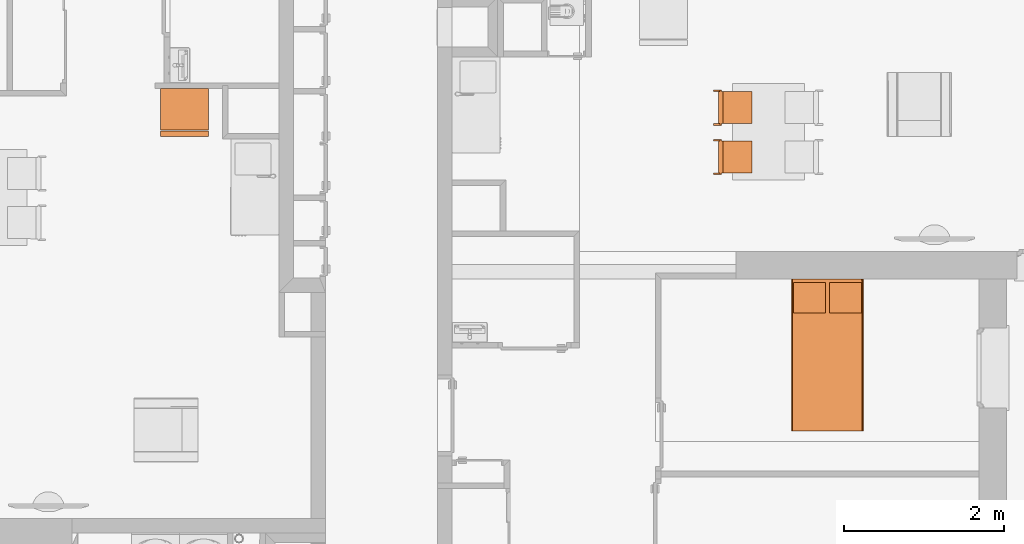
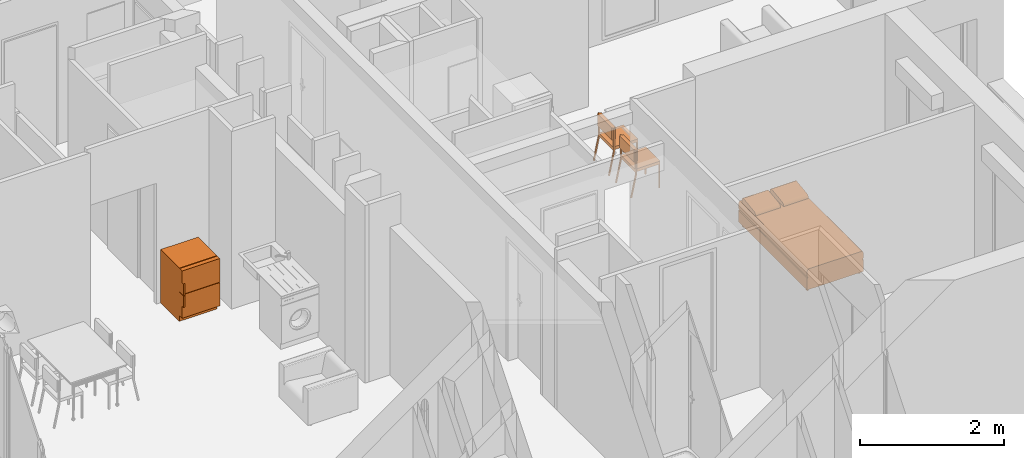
# One storey, part 145 of 164: 4 proxies.
"""IFC2X3 building model written with IfcOpenShell, lengths in millimetres."""

from ifc_helpers import new_model, entity, si_unit, converted_unit, derived_unit, money_unit, direction, frame, origin_with_axes, place, context, subcontext, project, spatial, open_shell, faceted_brep, surface_model, source, transform, mapped, type_object, element, save


model = new_model("IFC2X3")

# Units and contexts
model_context = context("Model", 3, precision=0.01, world=origin_with_axes(), true_north=direction((0.0, 1.0)))
body_context = subcontext(model_context, "Body", "Model", "MODEL_VIEW")
ifc_project = project(units=[si_unit("LENGTHUNIT", "METRE", prefix="MILLI"), si_unit("AREAUNIT", "SQUARE_METRE"), si_unit("VOLUMEUNIT", "CUBIC_METRE"), converted_unit("PLANEANGLEUNIT", "DEGREE", entity("IfcPlaneAngleMeasure", 0.0174532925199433), si_unit("PLANEANGLEUNIT", "RADIAN"), dimensions=[0, 0, 0, 0, 0, 0, 0]), money_unit("USD"), converted_unit("TIMEUNIT", "Year", entity("IfcTimeMeasure", 31557600.0), si_unit("TIMEUNIT", "SECOND"), dimensions=[0, 0, 1, 0, 0, 0, 0]), si_unit("MASSUNIT", "GRAM", prefix="KILO"), si_unit("THERMODYNAMICTEMPERATUREUNIT", "DEGREE_CELSIUS"), si_unit("LUMINOUSINTENSITYUNIT", "LUMEN"), si_unit("ENERGYUNIT", "JOULE", prefix="MEGA"), derived_unit("THERMALCONDUCTANCEUNIT", [(si_unit("POWERUNIT", "WATT"), 1), (si_unit("LENGTHUNIT", "METRE"), -1), (si_unit("THERMODYNAMICTEMPERATUREUNIT", "KELVIN"), -1)]), derived_unit("SPECIFICHEATCAPACITYUNIT", [(si_unit("ENERGYUNIT", "JOULE"), 1), (si_unit("MASSUNIT", "GRAM", prefix="KILO"), -1), (si_unit("THERMODYNAMICTEMPERATUREUNIT", "KELVIN"), -1)]), derived_unit("MASSDENSITYUNIT", [(si_unit("MASSUNIT", "GRAM", prefix="KILO"), 1), (si_unit("VOLUMEUNIT", "CUBIC_METRE"), -1)])], contexts=[model_context])

# Site, building, storey
site_placement = place(None, origin_with_axes())
site = spatial("IfcSite", under=ifc_project, at=site_placement, Name="Site", CompositionType="ELEMENT")
building_placement = place(site_placement, origin_with_axes())
building = spatial("IfcBuilding", under=site, at=building_placement, Name="Bâtiment", CompositionType="ELEMENT")
storey_placement = place(building_placement, frame((0.0, 0.0, 5750.0), z_axis=(0.0, 0.0, 1.0), x_axis=(1.0, 0.0, 0.0)))
storey = spatial("IfcBuildingStorey", under=building, at=storey_placement, Name="Etage1", CompositionType="ELEMENT", Elevation=5750.0)

# Proxies
building_element_proxy_type = type_object("IfcBuildingElementProxyType", PredefinedType="NOTDEFINED")
shared_shape_1 = source(origin_with_axes(), body_context, "Body", "Brep", [
    faceted_brep([(-39.99999978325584, 0.0, 0.0), (-39.99999978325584, 19.99999936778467, 0.0), (-19.99999989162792, 19.99999936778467, 0.0), (-19.99999989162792, 0.0, 0.0), (-39.99999978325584, 0.0, 400.0), (-39.99999978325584, 19.99999936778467, 400.0), (-19.99999989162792, 19.99999936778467, 400.0), (-19.99999989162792, 0.0, 400.0)], [[[0, 1, 2, 3]], [[0, 4, 5, 1]], [[1, 5, 6, 2]], [[2, 6, 7, 3]], [[3, 7, 4, 0]], [[7, 6, 5, 4]]]),
    faceted_brep([(-419.9999977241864, 0.0, 0.0), (-419.9999977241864, 19.99999936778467, 0.0), (-399.9999978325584, 19.99999936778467, 0.0), (-399.9999978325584, 0.0, 0.0), (-419.9999977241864, 0.0, 400.0), (-419.9999977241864, 19.99999936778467, 400.0), (-399.9999978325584, 19.99999936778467, 400.0), (-399.9999978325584, 0.0, 400.0)], [[[0, 1, 2, 3]], [[0, 4, 5, 1]], [[1, 5, 6, 2]], [[2, 6, 7, 3]], [[3, 7, 4, 0]], [[7, 6, 5, 4]]]),
    faceted_brep([(-399.9999978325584, 0.0, 400.0000000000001), (-399.9999978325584, 19.99999936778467, 400.0000000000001), (-39.99999978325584, 19.99999936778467, 400.0000000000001), (-39.99999978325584, 0.0, 400.0000000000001), (-399.9999978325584, 0.0, 420.0000000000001), (-399.9999978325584, 19.99999936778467, 420.0000000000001), (-39.99999978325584, 19.99999936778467, 420.0000000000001), (-39.99999978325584, 0.0, 420.0000000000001)], [[[0, 1, 2, 3]], [[0, 4, 5, 1]], [[1, 5, 6, 2]], [[2, 6, 7, 3]], [[3, 7, 4, 0]], [[7, 6, 5, 4]]]),
    faceted_brep([(-39.99999978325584, 19.99999936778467, 400.0000000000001), (-39.99999978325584, 379.9999879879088, 400.0000000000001), (-19.99999989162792, 379.9999879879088, 400.0000000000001), (-19.99999989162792, 19.99999936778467, 400.0000000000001), (-39.99999978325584, 19.99999936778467, 420.0000000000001), (-39.99999978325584, 379.9999879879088, 420.0000000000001), (-19.99999989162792, 379.9999879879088, 420.0000000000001), (-19.99999989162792, 19.99999936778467, 420.0000000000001)], [[[0, 1, 2, 3]], [[0, 4, 5, 1]], [[1, 5, 6, 2]], [[2, 6, 7, 3]], [[3, 7, 4, 0]], [[7, 6, 5, 4]]]),
    faceted_brep([(-419.9999977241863, 379.9999879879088, 400.0000000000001), (-419.9999977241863, 399.9999873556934, 400.0000000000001), (-19.99999989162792, 399.9999873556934, 400.0000000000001), (-19.99999989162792, 379.9999879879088, 400.0000000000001), (-419.9999977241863, 379.9999879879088, 420.0000000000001), (-419.9999977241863, 399.9999873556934, 420.0000000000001), (-19.99999989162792, 399.9999873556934, 420.0000000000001), (-19.99999989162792, 379.9999879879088, 420.0000000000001)], [[[0, 1, 2, 3]], [[0, 4, 5, 1]], [[1, 5, 6, 2]], [[2, 6, 7, 3]], [[3, 7, 4, 0]], [[7, 6, 5, 4]]]),
    faceted_brep([(-419.9999977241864, 19.99999936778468, 400.0000000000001), (-419.9999977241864, 379.9999879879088, 400.0000000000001), (-399.9999978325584, 379.9999879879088, 400.0000000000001), (-399.9999978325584, 19.99999936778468, 400.0000000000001), (-419.9999977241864, 19.99999936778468, 420.0000000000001), (-419.9999977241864, 379.9999879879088, 420.0000000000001), (-399.9999978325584, 379.9999879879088, 420.0000000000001), (-399.9999978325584, 19.99999936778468, 420.0000000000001)], [[[0, 1, 2, 3]], [[0, 4, 5, 1]], [[1, 5, 6, 2]], [[2, 6, 7, 3]], [[3, 7, 4, 0]], [[7, 6, 5, 4]]]),
    faceted_brep([(-419.9999977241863, 0.0, 400.0), (-419.9999977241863, 399.9999873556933, 400.0), (-19.99999989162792, 399.9999873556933, 400.0), (-19.99999989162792, 0.0, 400.0), (-419.9999977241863, 0.0, 450.0), (-419.9999977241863, 399.9999873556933, 450.0), (-19.99999989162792, 399.9999873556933, 450.0), (-19.99999989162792, 0.0, 450.0)], [[[0, 1, 2, 3]], [[0, 4, 5, 1]], [[1, 5, 6, 2]], [[2, 6, 7, 3]], [[3, 7, 4, 0]], [[7, 6, 5, 4]]]),
    faceted_brep([(-19.99999989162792, 379.9999879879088, 380.0), (-19.99999989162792, 399.9999873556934, 380.0), (0.0, 399.9999873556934, 380.0), (0.0, 379.9999879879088, 380.0), (-19.99999989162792, 379.9999879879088, 780.0), (-19.99999989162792, 399.9999873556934, 780.0), (0.0, 399.9999873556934, 780.0), (0.0, 379.9999879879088, 780.0)], [[[0, 1, 2, 3]], [[0, 4, 5, 1]], [[1, 5, 6, 2]], [[2, 6, 7, 3]], [[3, 7, 4, 0]], [[7, 6, 5, 4]]]),
    faceted_brep([(-439.9999976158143, 379.9999879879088, 380.0), (-439.9999976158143, 399.9999873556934, 380.0), (-419.9999977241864, 399.9999873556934, 380.0), (-419.9999977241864, 379.9999879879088, 380.0), (-439.9999976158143, 379.9999879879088, 780.0), (-439.9999976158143, 399.9999873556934, 780.0), (-419.9999977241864, 399.9999873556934, 780.0), (-419.9999977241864, 379.9999879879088, 780.0)], [[[0, 1, 2, 3]], [[0, 4, 5, 1]], [[1, 5, 6, 2]], [[2, 6, 7, 3]], [[3, 7, 4, 0]], [[7, 6, 5, 4]]]),
    faceted_brep([(-419.9999977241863, 359.999988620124, 580.0000000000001), (-419.9999977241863, 419.9999867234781, 580.0000000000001), (-19.99999989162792, 419.9999867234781, 580.0000000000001), (-19.99999989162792, 359.999988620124, 580.0000000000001), (-419.9999977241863, 359.999988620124, 780.0), (-419.9999977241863, 419.9999867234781, 780.0), (-19.99999989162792, 419.9999867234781, 780.0), (-19.99999989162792, 359.999988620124, 780.0)], [[[0, 1, 2, 3]], [[0, 4, 5, 1]], [[1, 5, 6, 2]], [[2, 6, 7, 3]], [[3, 7, 4, 0]], [[7, 6, 5, 4]]]),
    faceted_brep([(-19.99999989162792, 459.9999854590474, 0.0), (-19.99999989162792, 479.5709559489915, 4.120326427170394), (0.0, 479.5709559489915, 4.120326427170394), (0.0, 459.9999854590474, 0.0), (-19.99999989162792, 379.997669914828, 379.999760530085), (-19.99999989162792, 399.5686404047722, 384.1200869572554), (0.0, 399.5686404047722, 384.1200869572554), (0.0, 379.997669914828, 379.999760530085)], [[[0, 1, 2, 3]], [[0, 4, 5, 1]], [[1, 5, 6, 2]], [[2, 6, 7, 3]], [[3, 7, 4, 0]], [[7, 6, 5, 4]]]),
    faceted_brep([(-439.9999976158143, 459.9999854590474, 0.0), (-439.9999976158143, 479.5709559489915, 4.120326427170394), (-419.9999977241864, 479.5709559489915, 4.120326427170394), (-419.9999977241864, 459.9999854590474, 0.0), (-439.9999976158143, 379.997669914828, 379.999760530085), (-439.9999976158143, 399.5686404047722, 384.1200869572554), (-419.9999977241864, 399.5686404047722, 384.1200869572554), (-419.9999977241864, 379.997669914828, 379.999760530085)], [[[0, 1, 2, 3]], [[0, 4, 5, 1]], [[1, 5, 6, 2]], [[2, 6, 7, 3]], [[3, 7, 4, 0]], [[7, 6, 5, 4]]]),
])
for number, where, z_axis, x_axis, name in (
    (1, (2229634.550869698, -638670.4912594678, 0.0), (0.0, 0.0, 1.0), (8.510155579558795e-05, 0.9999999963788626, 0.0), "Obj.-027"),
    (2, (2229634.498521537, -639285.6166621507, 0.0), (0.0, 0.0, 1.0), (8.510155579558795e-05, 0.9999999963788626, 0.0), "Obj.-027"),
):
    element("IfcBuildingElementProxy", number, at=place(storey_placement, frame(where, z_axis=z_axis, x_axis=x_axis)), inside=storey, type_object=building_element_proxy_type, Name=name, context=body_context, shape_type="MappedRepresentation", body=[
        mapped(shared_shape_1, transform((0.0, 0.0, 0.0))),
    ])
shared_shape_2 = source(origin_with_axes(), body_context, "Body", "SurfaceModel", [
    faceted_brep([(0.0, 80.0, 100.0), (0.0, 80.0, 900.0), (-600.0, 80.0, 900.0), (-600.0, 80.0, 100.0), (0.0, 600.0, 100.0), (0.0, 600.0, 900.0), (-600.0, 600.0, 900.0), (-600.0, 600.0, 100.0)], [[[0, 1, 2, 3]], [[4, 5, 1, 0]], [[1, 5, 6, 2]], [[3, 2, 6, 7]], [[0, 3, 7, 4]], [[7, 6, 5, 4]]]),
    faceted_brep([(0.0, 80.0, 0.0), (0.0, 80.0, 100.0), (-600.0, 80.0, 100.0), (-600.0, 80.0, 0.0), (0.0, 600.0, 0.0), (0.0, 600.0, 100.0), (-600.0, 600.0, 100.0), (-600.0, 600.0, 0.0)], [[[0, 1, 2, 3]], [[4, 5, 1, 0]], [[1, 5, 6, 2]], [[3, 2, 6, 7]], [[0, 3, 7, 4]], [[7, 6, 5, 4]]]),
    faceted_brep([(0.0, 70.0, 100.0), (0.0, 0.0, 100.0), (-600.0, 0.0, 100.0), (-600.0, 70.0, 100.0), (0.0, 70.00000000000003, 494.0), (0.0, 0.0, 494.0), (-600.0, 0.0, 494.0), (-600.0, 70.00000000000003, 494.0)], [[[0, 1, 2, 3]], [[4, 5, 1, 0]], [[1, 5, 6, 2]], [[3, 2, 6, 7]], [[0, 3, 7, 4]], [[7, 6, 5, 4]]]),
    faceted_brep([(0.0, 70.0, 500.0), (0.0, 0.0, 500.0), (-600.0, 0.0, 500.0), (-600.0, 70.0, 500.0), (0.0, 70.00000000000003, 900.0), (0.0, 0.0, 900.0), (-600.0, 0.0, 900.0), (-600.0, 70.00000000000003, 900.0)], [[[0, 1, 2, 3]], [[4, 5, 1, 0]], [[1, 5, 6, 2]], [[3, 2, 6, 7]], [[0, 3, 7, 4]], [[7, 6, 5, 4]]]),
    surface_model("IfcShellBasedSurfaceModel", [(-600.0, -30.0, 300.0000000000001), (-600.0, 0.0, 300.0000000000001), (-600.0, 0.0, 494.0000000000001), (-600.0, -30.0, 494.0000000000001)], [open_shell([[[0, 1, 2, 3]]])]),
    surface_model("IfcShellBasedSurfaceModel", [(-600.0, -30.0, 300.0000000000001), (-570.0, -30.0, 300.0000000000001), (-570.0, -30.0, 494.0000000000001), (-600.0, -30.0, 494.0000000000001)], [open_shell([[[0, 1, 2, 3]]])]),
    surface_model("IfcShellBasedSurfaceModel", [(-600.0, -30.0, 500.0), (-600.0, 0.0, 500.0), (-600.0, 0.0, 700.0), (-600.0, -30.0, 700.0)], [open_shell([[[0, 1, 2, 3]]])]),
    surface_model("IfcShellBasedSurfaceModel", [(-600.0, -30.0, 500.0), (-570.0, -30.0, 500.0), (-570.0, -30.0, 700.0), (-600.0, -30.0, 700.0)], [open_shell([[[0, 1, 2, 3]]])]),
])
proxy_1_placement = place(storey_placement, frame((2222856.56085778, -639252.0255296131, 0.0), z_axis=(0.0, 0.0, 1.0), x_axis=(1.0, 0.0, 0.0)))
element("IfcBuildingElementProxy", 3, at=proxy_1_placement, inside=storey, type_object=building_element_proxy_type, Name="Obj.-019", context=body_context, shape_type="MappedRepresentation", body=[
    mapped(shared_shape_2, transform((0.0, 0.0, 0.0))),
])
shared_shape_3 = source(origin_with_axes(), body_context, "Body", "SurfaceModel", [
    faceted_brep([(-400.0, -95.0, 0.0), (-425.0000000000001, -95.0, 0.0), (-425.0000000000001, -47.5, 0.0), (-400.0, -47.5, 0.0), (-400.0, -95.0, 50.0), (-425.0000000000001, -95.0, 50.0), (-425.0000000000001, -47.5, 50.0), (-400.0, -47.5, 50.0)], [[[0, 1, 2, 3]], [[1, 0, 4, 5]], [[2, 1, 5, 6]], [[3, 2, 6, 7]], [[0, 3, 7, 4]], [[5, 4, 7, 6]]]),
    faceted_brep([(-400.0, -1852.5, 0.0), (-425.0000000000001, -1852.5, 0.0), (-425.0000000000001, -1805.0, 0.0), (-400.0, -1805.0, 0.0), (-400.0, -1852.5, 50.0), (-425.0000000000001, -1852.5, 50.0), (-425.0000000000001, -1805.0, 50.0), (-400.0, -1805.0, 50.0)], [[[0, 1, 2, 3]], [[1, 0, 4, 5]], [[2, 1, 5, 6]], [[3, 2, 6, 7]], [[0, 3, 7, 4]], [[5, 4, 7, 6]]]),
    faceted_brep([(425.0000000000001, -1852.5, 0.0), (400.0, -1852.5, 0.0), (400.0, -1805.0, 0.0), (425.0000000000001, -1805.0, 0.0), (425.0000000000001, -1852.5, 50.0), (400.0, -1852.5, 50.0), (400.0, -1805.0, 50.0), (425.0000000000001, -1805.0, 50.0)], [[[0, 1, 2, 3]], [[1, 0, 4, 5]], [[2, 1, 5, 6]], [[3, 2, 6, 7]], [[0, 3, 7, 4]], [[5, 4, 7, 6]]]),
    faceted_brep([(425.0000000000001, -94.99999999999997, 0.0), (400.0, -94.99999999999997, 0.0), (400.0, -47.49999999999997, 0.0), (425.0000000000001, -47.49999999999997, 0.0), (425.0000000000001, -94.99999999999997, 50.0), (400.0, -94.99999999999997, 50.0), (400.0, -47.49999999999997, 50.0), (425.0000000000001, -47.49999999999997, 50.0)], [[[0, 1, 2, 3]], [[1, 0, 4, 5]], [[2, 1, 5, 6]], [[3, 2, 6, 7]], [[0, 3, 7, 4]], [[5, 4, 7, 6]]]),
    faceted_brep([(-450.0, 0.0, 50.0), (450.0, 0.0, 50.0), (450.0, -1900.0, 50.00000000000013), (-450.0, -1900.0, 50.00000000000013), (-450.0, 0.0, 250.0), (450.0, 0.0, 250.0), (450.0, -1900.0, 250.0000000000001), (-450.0, -1900.0, 250.0000000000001)], [[[0, 1, 2, 3]], [[0, 4, 5, 1]], [[1, 5, 6, 2]], [[3, 2, 6, 7]], [[4, 0, 3, 7]], [[5, 4, 7, 6]]]),
    surface_model("IfcShellBasedSurfaceModel", [(425.0000000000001, 0.0, 250.0), (429.3412044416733, 0.0, 250.7596123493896), (429.3412044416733, -1900.0, 250.7596123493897), (425.0000000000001, -1900.0, 250.0000000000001), (-425.0000000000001, 0.0, 250.0), (-429.3412044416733, 0.0, 250.7596123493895), (-433.5505035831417, 0.0, 253.0153689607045), (-437.5, 0.0, 256.698729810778), (-441.0696902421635, 0.0, 261.6977778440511), (-444.1511110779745, 0.0, 267.860619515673), (-446.650635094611, 0.0, 275.0), (-448.4923155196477, 0.0, 282.8989928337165), (-449.6201938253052, 0.0, 291.3175911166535), (-450.0, 0.0, 300.0000000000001), (-450.0000000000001, 0.0, 350.0), (-449.6201938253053, 0.0, 358.6824088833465), (-448.4923155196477, 0.0, 367.1010071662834), (-446.650635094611, 0.0, 375.0), (-444.1511110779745, 0.0, 382.139380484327), (-441.0696902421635, 0.0, 388.3022221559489), (-437.5000000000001, 0.0, 393.301270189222), (-433.5505035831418, 0.0, 396.9846310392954), (-429.3412044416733, 0.0, 399.2403876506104), (-425.0000000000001, 0.0, 400.0), (425.0, 0.0, 400.0000000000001), (429.3412044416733, 0.0, 399.2403876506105), (433.5505035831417, 0.0, 396.9846310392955), (437.5, 0.0, 393.301270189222), (441.0696902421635, 0.0, 388.3022221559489), (444.1511110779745, 0.0, 382.139380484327), (446.6506350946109, 0.0, 375.0000000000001), (448.4923155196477, 0.0, 367.1010071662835), (449.6201938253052, 0.0, 358.6824088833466), (450.0, 0.0, 350.0000000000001), (450.0, 0.0, 300.0000000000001), (449.6201938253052, 0.0, 291.3175911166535), (448.4923155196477, 0.0, 282.8989928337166), (446.650635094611, 0.0, 275.0), (444.1511110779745, 0.0, 267.8606195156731), (441.0696902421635, 0.0, 261.6977778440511), (437.5000000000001, 0.0, 256.698729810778), (433.5505035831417, 0.0, 253.0153689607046), (433.5505035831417, -1900.0, 253.0153689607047), (-425.0000000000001, -1900.0, 250.0000000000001), (437.5000000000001, -1900.0, 256.6987298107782), (441.0696902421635, -1900.0, 261.6977778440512), (444.1511110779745, -1900.0, 267.8606195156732), (446.650635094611, -1900.0, 275.0000000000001), (448.4923155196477, -1900.0, 282.8989928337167), (449.6201938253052, -1900.0, 291.3175911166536), (450.0, -1900.0, 300.0000000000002), (450.0, -1900.0, 350.0000000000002), (449.6201938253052, -1900.0, 358.6824088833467), (448.4923155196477, -1900.0, 367.1010071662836), (446.6506350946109, -1900.0, 375.0000000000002), (444.1511110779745, -1900.0, 382.1393804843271), (441.0696902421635, -1900.0, 388.302222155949), (437.5, -1900.0, 393.3012701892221), (433.5505035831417, -1900.0, 396.9846310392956), (429.3412044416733, -1900.0, 399.2403876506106), (425.0, -1900.0, 400.0000000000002), (-425.0000000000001, -1900.0, 400.0000000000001), (-429.3412044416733, -1900.0, 399.2403876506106), (-433.5505035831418, -1900.0, 396.9846310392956), (-437.5000000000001, -1900.0, 393.3012701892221), (-441.0696902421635, -1900.0, 388.302222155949), (-444.1511110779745, -1900.0, 382.1393804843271), (-446.650635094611, -1900.0, 375.0000000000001), (-448.4923155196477, -1900.0, 367.1010071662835), (-449.6201938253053, -1900.0, 358.6824088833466), (-450.0000000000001, -1900.0, 350.0000000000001), (-450.0, -1900.0, 300.0000000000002), (-449.6201938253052, -1900.0, 291.3175911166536), (-448.4923155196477, -1900.0, 282.8989928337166), (-446.650635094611, -1900.0, 275.0000000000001), (-444.1511110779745, -1900.0, 267.8606195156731), (-441.0696902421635, -1900.0, 261.6977778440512), (-437.5, -1900.0, 256.6987298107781), (-433.5505035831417, -1900.0, 253.0153689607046), (-429.3412044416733, -1900.0, 250.7596123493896)], [open_shell([[[0, 1, 2, 3]], [[4, 5, 6, 7, 8, 9, 10, 11, 12, 13, 14, 15, 16, 17, 18, 19, 20, 21, 22, 23, 24, 25, 26, 27, 28, 29, 30, 31, 32, 33, 34, 35, 36, 37, 38, 39, 40, 41, 1, 0]], [[1, 41, 42, 2]], [[43, 3, 2, 42, 44, 45, 46, 47, 48, 49, 50, 51, 52, 53, 54, 55, 56, 57, 58, 59, 60, 61, 62, 63, 64, 65, 66, 67, 68, 69, 70, 71, 72, 73, 74, 75, 76, 77, 78, 79]], [[5, 4, 43, 79]], [[6, 5, 79, 78]], [[7, 6, 78, 77]], [[8, 7, 77, 76]], [[9, 8, 76, 75]], [[10, 9, 75, 74]], [[11, 10, 74, 73]], [[12, 11, 73, 72]], [[13, 12, 72, 71]], [[14, 13, 71, 70]], [[15, 14, 70, 69]], [[16, 15, 69, 68]], [[17, 16, 68, 67]], [[18, 17, 67, 66]], [[19, 18, 66, 65]], [[20, 19, 65, 64]], [[21, 20, 64, 63]], [[22, 21, 63, 62]], [[23, 22, 62, 61]], [[24, 23, 61, 60]], [[25, 24, 60, 59]], [[26, 25, 59, 58]], [[27, 26, 58, 57]], [[28, 27, 57, 56]], [[29, 28, 56, 55]], [[30, 29, 55, 54]], [[31, 30, 54, 53]], [[32, 31, 53, 52]], [[33, 32, 52, 51]], [[34, 33, 51, 50]], [[35, 34, 50, 49]], [[36, 35, 49, 48]], [[37, 36, 48, 47]], [[38, 37, 47, 46]], [[39, 38, 46, 45]], [[40, 39, 45, 44]], [[41, 40, 44, 42]]])]),
    faceted_brep([(24.99999999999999, -47.49999999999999, 400.0), (24.99999999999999, -47.49999999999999, 443.4), (425.0, -47.50000000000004, 443.4000000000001), (425.0, -47.50000000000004, 400.0000000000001), (24.99999999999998, -427.5, 400.0), (24.99999999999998, -427.6960812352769, 408.695442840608), (24.99999999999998, -426.4675711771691, 417.2966661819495), (24.99999999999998, -423.8511300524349, 425.5469991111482), (24.99999999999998, -419.9248356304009, 433.2002417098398), (24.99999999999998, -414.8058532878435, 440.0280119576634), (24.99999999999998, -408.6469396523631, 445.826560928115), (24.99999999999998, -401.6318841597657, 450.4228529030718), (24.99999999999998, -393.9700245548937, 453.6797289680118), (24.99999999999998, -385.89, 455.5), (24.99999999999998, -100.89, 493.0000000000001), (24.99999999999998, -92.85488048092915, 493.3370808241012), (24.99999999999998, -84.88093291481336, 492.2422169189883), (24.99999999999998, -77.19681007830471, 489.7468034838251), (24.99999999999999, -70.02285403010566, 485.922396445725), (24.99999999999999, -63.56477780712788, 480.878660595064), (24.99999999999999, -58.00776660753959, 474.7602249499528), (24.99999999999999, -53.51116760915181, 467.7425355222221), (24.99999999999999, -50.20392069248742, 460.0268244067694), (24.99999999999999, -48.18086109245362, 451.834339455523), (425.0, -48.18086109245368, 451.8343394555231), (425.0, -50.20392069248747, 460.0268244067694), (425.0, -53.51116760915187, 467.7425355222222), (425.0, -58.00776660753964, 474.7602249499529), (425.0, -63.56477780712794, 480.878660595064), (425.0, -70.02285403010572, 485.922396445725), (425.0, -77.19681007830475, 489.7468034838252), (425.0, -84.88093291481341, 492.2422169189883), (425.0, -92.85488048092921, 493.3370808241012), (425.0, -100.8900000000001, 493.0000000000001), (425.0, -385.89, 455.5000000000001), (425.0, -393.9700245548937, 453.6797289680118), (425.0, -401.6318841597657, 450.4228529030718), (425.0, -408.6469396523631, 445.826560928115), (425.0, -414.8058532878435, 440.0280119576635), (425.0, -419.924835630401, 433.2002417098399), (425.0, -423.8511300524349, 425.5469991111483), (425.0, -426.4675711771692, 417.2966661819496), (425.0, -427.6960812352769, 408.6954428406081), (425.0, -427.5, 400.0000000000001)], [[[0, 1, 2, 3]], [[0, 4, 5, 6, 7, 8, 9, 10, 11, 12, 13, 14, 15, 16, 17, 18, 19, 20, 21, 22, 23, 1]], [[1, 23, 24, 2]], [[3, 2, 24, 25, 26, 27, 28, 29, 30, 31, 32, 33, 34, 35, 36, 37, 38, 39, 40, 41, 42, 43]], [[4, 0, 3, 43]], [[5, 4, 43, 42]], [[6, 5, 42, 41]], [[7, 6, 41, 40]], [[8, 7, 40, 39]], [[9, 8, 39, 38]], [[10, 9, 38, 37]], [[11, 10, 37, 36]], [[12, 11, 36, 35]], [[13, 12, 35, 34]], [[14, 13, 34, 33]], [[15, 14, 33, 32]], [[16, 15, 32, 31]], [[17, 16, 31, 30]], [[18, 17, 30, 29]], [[19, 18, 29, 28]], [[20, 19, 28, 27]], [[21, 20, 27, 26]], [[22, 21, 26, 25]], [[23, 22, 25, 24]]]),
    faceted_brep([(-425.0000000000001, -47.49999999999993, 399.9999999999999), (-425.0000000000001, -47.49999999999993, 443.4), (-25.00000000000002, -47.49999999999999, 443.4), (-25.00000000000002, -47.49999999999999, 400.0), (-425.0000000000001, -427.4999999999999, 399.9999999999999), (-425.0000000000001, -427.6960812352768, 408.6954428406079), (-425.0000000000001, -426.4675711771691, 417.2966661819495), (-425.0000000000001, -423.8511300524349, 425.5469991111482), (-425.0000000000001, -419.9248356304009, 433.2002417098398), (-425.0000000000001, -414.8058532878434, 440.0280119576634), (-425.0000000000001, -408.646939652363, 445.8265609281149), (-425.0000000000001, -401.6318841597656, 450.4228529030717), (-425.0000000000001, -393.9700245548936, 453.6797289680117), (-425.0000000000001, -385.8899999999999, 455.4999999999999), (-425.0000000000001, -100.89, 493.0), (-425.0000000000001, -92.8548804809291, 493.3370808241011), (-425.0000000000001, -84.8809329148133, 492.2422169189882), (-425.0000000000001, -77.19681007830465, 489.7468034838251), (-425.0000000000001, -70.0228540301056, 485.9223964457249), (-425.0000000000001, -63.56477780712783, 480.8786605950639), (-425.0000000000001, -58.00776660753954, 474.7602249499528), (-425.0000000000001, -53.51116760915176, 467.7425355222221), (-425.0000000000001, -50.20392069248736, 460.0268244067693), (-425.0000000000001, -48.18086109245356, 451.834339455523), (-25.00000000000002, -48.18086109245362, 451.834339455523), (-25.00000000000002, -50.20392069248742, 460.0268244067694), (-25.00000000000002, -53.51116760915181, 467.7425355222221), (-25.00000000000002, -58.00776660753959, 474.7602249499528), (-25.00000000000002, -63.56477780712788, 480.878660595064), (-25.00000000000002, -70.02285403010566, 485.922396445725), (-25.00000000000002, -77.19681007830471, 489.7468034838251), (-25.00000000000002, -84.88093291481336, 492.2422169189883), (-25.00000000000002, -92.85488048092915, 493.3370808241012), (-25.00000000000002, -100.89, 493.0000000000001), (-25.00000000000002, -385.8899999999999, 455.5), (-25.00000000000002, -393.9700245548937, 453.6797289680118), (-25.00000000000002, -401.6318841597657, 450.4228529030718), (-25.00000000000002, -408.6469396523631, 445.826560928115), (-25.00000000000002, -414.8058532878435, 440.0280119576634), (-25.00000000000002, -419.9248356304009, 433.2002417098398), (-25.00000000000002, -423.8511300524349, 425.5469991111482), (-25.00000000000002, -426.4675711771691, 417.2966661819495), (-25.00000000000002, -427.6960812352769, 408.695442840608), (-25.00000000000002, -427.4999999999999, 400.0)], [[[0, 1, 2, 3]], [[0, 4, 5, 6, 7, 8, 9, 10, 11, 12, 13, 14, 15, 16, 17, 18, 19, 20, 21, 22, 23, 1]], [[1, 23, 24, 2]], [[3, 2, 24, 25, 26, 27, 28, 29, 30, 31, 32, 33, 34, 35, 36, 37, 38, 39, 40, 41, 42, 43]], [[4, 0, 3, 43]], [[5, 4, 43, 42]], [[6, 5, 42, 41]], [[7, 6, 41, 40]], [[8, 7, 40, 39]], [[9, 8, 39, 38]], [[10, 9, 38, 37]], [[11, 10, 37, 36]], [[12, 11, 36, 35]], [[13, 12, 35, 34]], [[14, 13, 34, 33]], [[15, 14, 33, 32]], [[16, 15, 32, 31]], [[17, 16, 31, 30]], [[18, 17, 30, 29]], [[19, 18, 29, 28]], [[20, 19, 28, 27]], [[21, 20, 27, 26]], [[22, 21, 26, 25]], [[23, 22, 25, 24]]]),
])
proxy_2_placement = place(storey_placement, frame((2230573.268516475, -641025.2771141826, 0.0), z_axis=(0.0, 0.0, 1.0), x_axis=(0.9999999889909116, 0.000148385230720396, 0.0)))
element("IfcBuildingElementProxy", 4, at=proxy_2_placement, inside=storey, type_object=building_element_proxy_type, Name="Obj.-003", context=body_context, shape_type="MappedRepresentation", body=[
    mapped(shared_shape_3, transform((0.0, 0.0, 0.0))),
])

save(model, "model.ifc")
